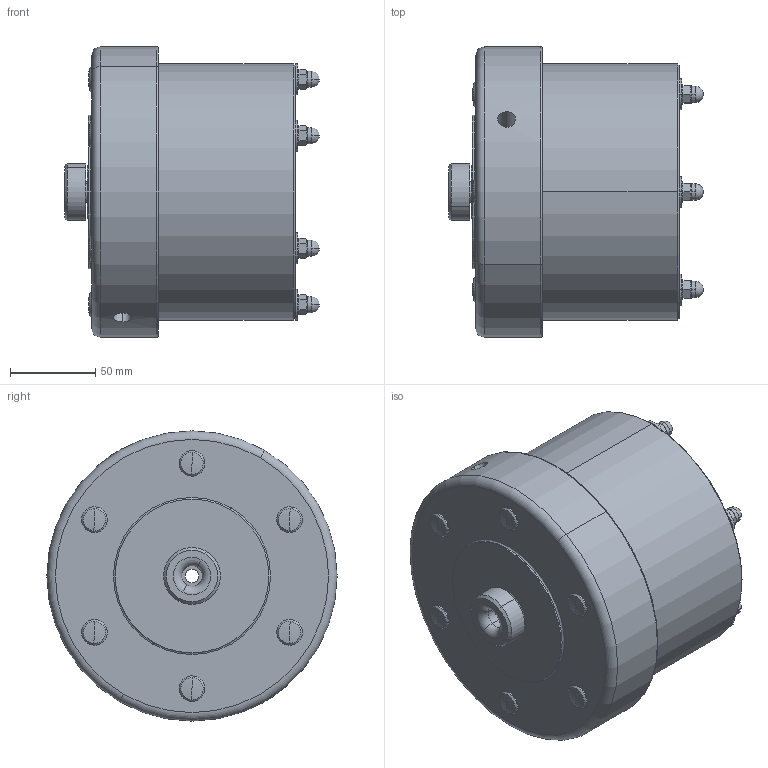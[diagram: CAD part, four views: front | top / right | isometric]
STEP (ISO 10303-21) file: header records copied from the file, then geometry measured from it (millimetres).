
FILE_DESCRIPTION (( 'STEP AP214' ), '1' );
FILE_NAME ('W-AT 25.STEP', '2019-04-25T08:19:07', ( '' ), ( '' ), 'SwSTEP 2.0', 'SolidWorks 2019', '' );
FILE_SCHEMA (( 'AUTOMOTIVE_DESIGN' ));
Length unit declared in the file: millimetre
Products named in the file (1): W-AT 25
Bounding box: 149.3 x 170 x 170 mm (x, y, z)
Surface area: 118319.5 mm2 (no closed solid volume)
Topology: 0 solids, 15 shells, 187 faces, 468 edges, 304 vertices
Faces by surface type: cylinder 66, plane 59, cone 28, sphere 24, torus 10
Entity records: 8144 total; most frequent: CARTESIAN_POINT 1524, DIRECTION 1042, ORIENTED_EDGE 848, EDGE_CURVE 456, AXIS2_PLACEMENT_3D 438, VERTEX_POINT 304, CIRCLE 250, EDGE_LOOP 219
